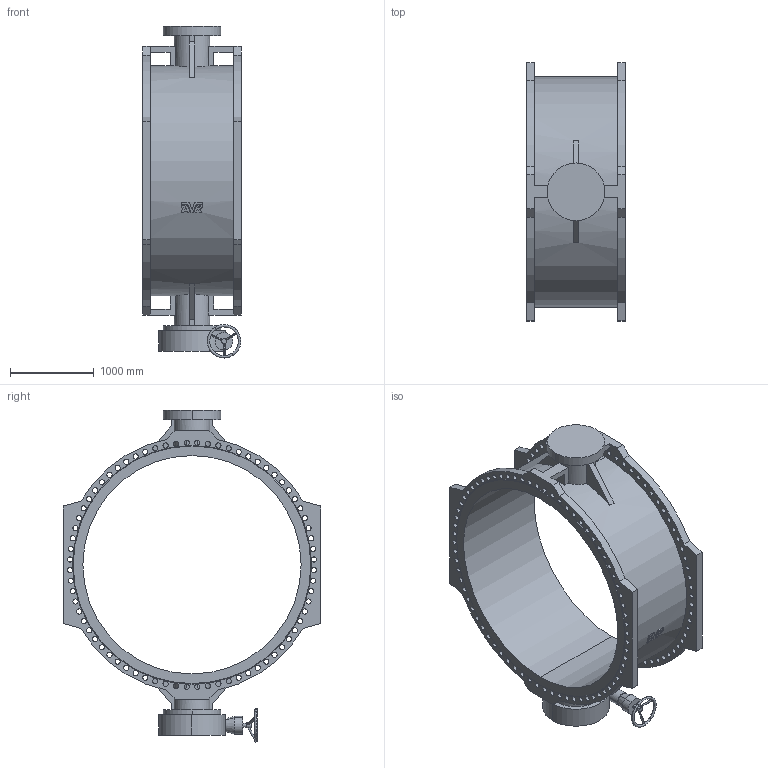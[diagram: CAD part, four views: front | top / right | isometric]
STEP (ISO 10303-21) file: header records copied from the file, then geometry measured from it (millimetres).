
FILE_DESCRIPTION (( 'STEP AP203' ), '1' );
FILE_NAME ('O_756_100_DN2600_1XX000XX_REV02.step', '2021-10-11T07:03:06', ( '' ), ( '' ), 'SwSTEP 2.0', 'SolidWorks 2019', '' );
FILE_SCHEMA (( 'CONFIG_CONTROL_DESIGN' ));
Length unit declared in the file: millimetre
Products named in the file (1): O_756_100_DN2600_1XX000XX_REV02
Bounding box: 1190 x 3070 x 3953.39 mm (x, y, z)
Volume: 1322497667.9 mm3; surface area: 34480026.5 mm2
Topology: 1 solids, 1 shells, 447 faces, 1320 edges, 878 vertices
Faces by surface type: cylinder 328, plane 92, bspline 17, cone 6, torus 4
Entity records: 17495 total; most frequent: CARTESIAN_POINT 4368, DIRECTION 2799, ORIENTED_EDGE 2640, EDGE_CURVE 1320, AXIS2_PLACEMENT_3D 1112, VERTEX_POINT 878, EDGE_LOOP 754, CIRCLE 681
